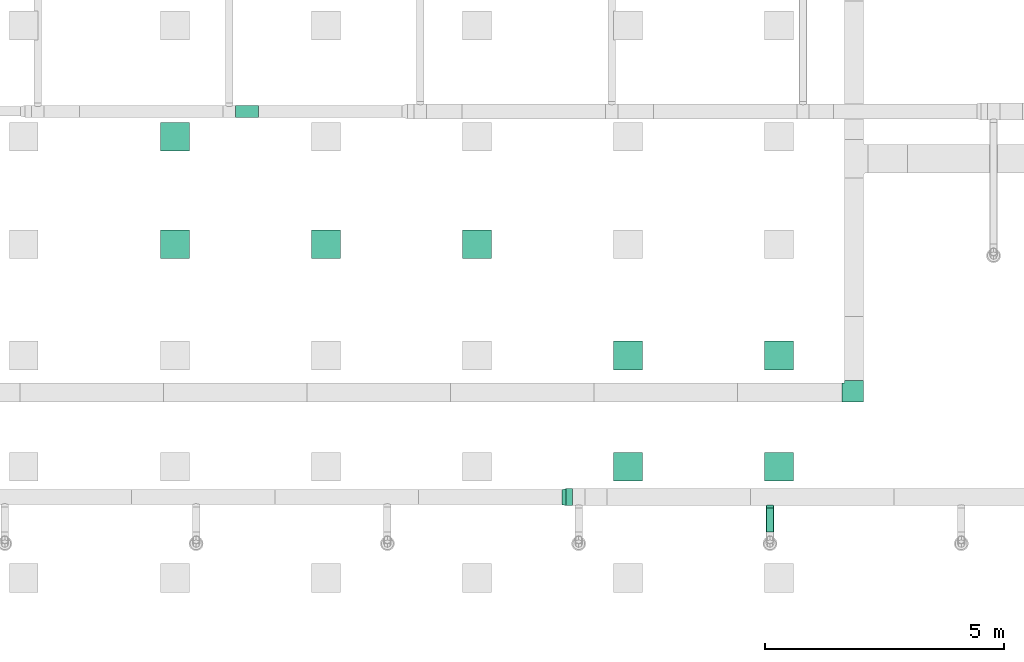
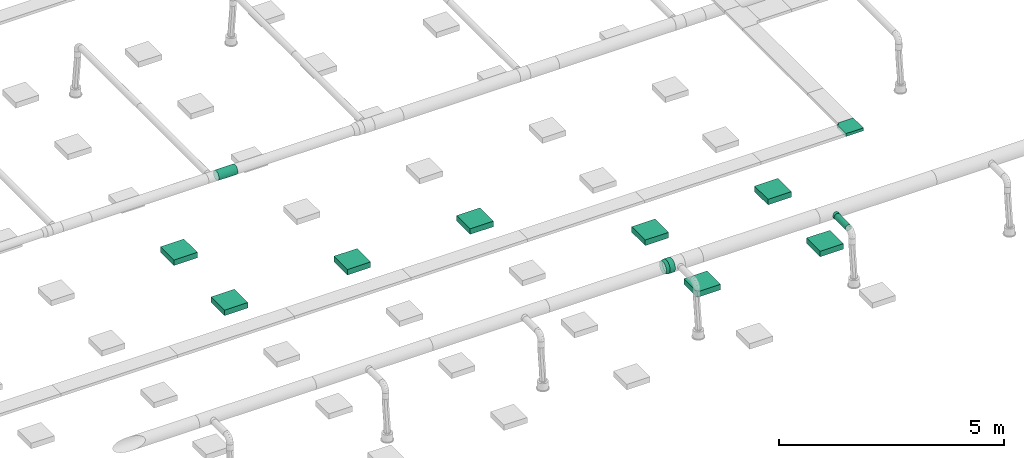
# One storey, part 27 of 374: 9 distribution elements, 4 flow segments, 1 flow fitting.
"""IFC2X3 building model written with IfcOpenShell, lengths in metres."""

from ifc_helpers import new_model, si_unit, direction, frame, frame_2d, origin, place, context, subcontext, project, spatial, rectangle, extrude, open_shell, surface_model, source, transform, mapped, element, save


model = new_model("IFC2X3")

# Units and contexts
model_context = context("Model", 3, precision=1e-05, world=origin(), true_north=direction((-0.4480736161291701, 0.8939966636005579)))
body_context = subcontext(model_context, "Body", "Model", "MODEL_VIEW")
ifc_project = project(units=[si_unit("LENGTHUNIT", "METRE"), si_unit("AREAUNIT", "SQUARE_METRE"), si_unit("VOLUMEUNIT", "CUBIC_METRE"), si_unit("PLANEANGLEUNIT", "RADIAN"), si_unit("THERMODYNAMICTEMPERATUREUNIT", "KELVIN"), si_unit("MASSUNIT", "GRAM", prefix="KILO"), si_unit("TIMEUNIT", "SECOND")], contexts=[model_context])

# Site, building, storey
site_placement = place(None, origin())
site = spatial("IfcSite", under=ifc_project, at=site_placement, Name="Site 1", CompositionType="ELEMENT")
building_placement = place(site_placement, origin())
building = spatial("IfcBuilding", under=site, at=building_placement, Name="Undefined", CompositionType="ELEMENT")
storey_placement = place(building_placement, origin())
storey = spatial("IfcBuildingStorey", under=building, at=storey_placement, Name="Rez de chauss\x8ee", CompositionType="ELEMENT", Elevation=0.0)

# Flow segment
shared_shape_1 = source(origin(), body_context, "Body", "SurfaceModel", [
    surface_model("IfcFaceBasedSurfaceModel", [(0.0, 0.046336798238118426, 0.0), (0.0, 0.0, 0.0), (0.13500000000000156, -7.105427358e-15, 8.8817842e-16), (0.13500000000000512, 0.046336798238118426, 0.0), (0.0, -0.044757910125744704, -0.0119928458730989), (0.13500000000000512, -0.044757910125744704, -0.0119928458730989), (0.0, -0.08488675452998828, -0.035161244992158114), (0.13500000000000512, -0.08488675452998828, -0.035161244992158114), (0.0, -0.11765181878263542, -0.06792630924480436), (0.13500000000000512, -0.11765181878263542, -0.06792630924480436), (0.0, -0.1408202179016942, -0.10805515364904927), (0.13500000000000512, -0.1408202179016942, -0.10805515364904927), (0.0, -0.15281306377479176, -0.15281306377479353), (0.13500000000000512, -0.15281306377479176, -0.15281306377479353), (0.0, -0.1528130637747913, -0.19914986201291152), (0.13500000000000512, -0.1528130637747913, -0.19914986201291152), (0.0, -0.14082021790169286, -0.24390777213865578), (0.13500000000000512, -0.14082021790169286, -0.24390777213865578), (0.0, -0.11765181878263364, -0.2840366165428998), (0.13500000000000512, -0.11765181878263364, -0.2840366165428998), (0.0, -0.0848867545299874, -0.31680168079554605), (0.13500000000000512, -0.0848867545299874, -0.31680168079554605), (0.0, -0.044757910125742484, -0.3399700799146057), (0.13500000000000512, -0.044757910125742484, -0.3399700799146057), (0.0, 1.776356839e-15, -0.35196292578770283), (0.13500000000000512, 1.776356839e-15, -0.35196292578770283), (0.0, 0.0463367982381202, -0.3519629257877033), (0.13500000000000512, 0.0463367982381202, -0.3519629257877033), (0.0, 0.09109470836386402, -0.3399700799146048), (0.13500000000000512, 0.09109470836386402, -0.3399700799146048), (0.0, 0.13122355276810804, -0.31680168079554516), (0.13500000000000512, 0.13122355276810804, -0.31680168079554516), (0.0, 0.16398861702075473, -0.2840366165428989), (0.13500000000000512, 0.16398861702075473, -0.2840366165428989), (0.0, 0.18715701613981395, -0.243907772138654), (0.13500000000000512, 0.18715701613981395, -0.243907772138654), (0.0, 0.19914986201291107, -0.19914986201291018), (0.13500000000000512, 0.19914986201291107, -0.19914986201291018), (0.0, 0.19914986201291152, -0.15281306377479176), (0.13500000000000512, 0.19914986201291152, -0.15281306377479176), (0.0, 0.18715701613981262, -0.1080551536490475), (0.13500000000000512, 0.18715701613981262, -0.1080551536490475), (0.0, 0.1639886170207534, -0.06792630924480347), (0.13500000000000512, 0.1639886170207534, -0.06792630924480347), (0.0, 0.1312235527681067, -0.03516124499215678), (0.13500000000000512, 0.1312235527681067, -0.03516124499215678), (0.0, 0.09109470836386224, -0.011992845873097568), (0.13500000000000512, 0.09109470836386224, -0.011992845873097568)], [open_shell([[[0, 1, 2, 3]], [[1, 4, 5, 2]], [[4, 6, 7, 5]], [[6, 8, 9, 7]], [[8, 10, 11, 9]], [[10, 12, 13, 11]], [[12, 14, 15, 13]], [[14, 16, 17, 15]], [[16, 18, 19, 17]], [[18, 20, 21, 19]], [[20, 22, 23, 21]], [[22, 24, 25, 23]], [[24, 26, 27, 25]], [[26, 28, 29, 27]], [[28, 30, 31, 29]], [[30, 32, 33, 31]], [[32, 34, 35, 33]], [[34, 36, 37, 35]], [[36, 38, 39, 37]], [[38, 40, 41, 39]], [[40, 42, 43, 41]], [[42, 44, 45, 43]], [[44, 46, 47, 45]], [[46, 0, 3, 47]]])]),
])
flow_segment_1_placement = place(storey_placement, origin())
element("IfcFlowSegment", 1, at=flow_segment_1_placement, inside=storey, Name="Manchon", ObjectType="Manchon", context=body_context, shape_type="MappedRepresentation", body=[
    mapped(shared_shape_1, transform((22.160000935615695, 2.897238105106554, 3.9714518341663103), x_axis=(-1.0, 0.0, 0.0), y_axis=(7.266545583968e-12, -0.9914448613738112, 0.13052619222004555), z_axis=(0.0, 0.13052619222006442, 0.9914448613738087))),
])

# Flow fitting
shared_shape_2 = source(origin(), body_context, "Body", "SurfaceModel", [
    surface_model("IfcFaceBasedSurfaceModel", [(0.08732124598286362, 1.776356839e-15, 7.105427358e-15), (0.08593597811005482, 0.0463160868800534, 0.0), (-0.0012291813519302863, 0.04109737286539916, 4.4408921e-16), (0.0, 0.0, 0.0), (0.08187457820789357, 0.09097253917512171, -0.011679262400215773), (-0.004832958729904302, 0.08072211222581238, -0.010363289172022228), (0.07541382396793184, 0.13092609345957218, -0.0342418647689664), (-0.010565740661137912, 0.1161738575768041, -0.030383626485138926), (0.06699400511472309, 0.16345398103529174, -0.06615020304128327), (-0.018036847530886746, 0.1450366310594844, -0.05869665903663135), (0.05718891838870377, 0.18633948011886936, -0.1052297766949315), (-0.02673713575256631, 0.1653434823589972, -0.09337290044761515), (0.04666676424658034, 0.1980229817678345, -0.14881737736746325), (-0.03607369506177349, 0.17571053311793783, -0.1320492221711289), (0.03614461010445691, 0.1977082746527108, -0.19394258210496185), (-0.045410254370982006, 0.1754312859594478, -0.17208989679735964), (0.02633952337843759, 0.1854168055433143, -0.2375301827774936), (-0.05411054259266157, 0.16452477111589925, -0.2107662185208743), (0.017919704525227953, 0.16198621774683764, -0.2766097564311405), (-0.061581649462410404, 0.14373424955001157, -0.2454424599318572), (0.011458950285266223, 0.12901326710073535, -0.30851809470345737), (-0.06731443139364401, 0.11447656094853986, -0.2737554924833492), (0.007397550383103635, 0.08874500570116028, -0.3310806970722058), (-0.07091820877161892, 0.07874556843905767, -0.29377582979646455), (0.006012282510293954, 0.04392564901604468, -0.34275995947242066), (-0.0721473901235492, 0.03897628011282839, -0.3041391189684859), (0.007397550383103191, -0.002390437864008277, -0.3427599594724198), (-0.07091820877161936, -0.0021210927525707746, -0.30413911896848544), (0.011458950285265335, -0.04704689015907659, -0.331080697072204), (-0.0673144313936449, -0.041745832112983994, -0.29377582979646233), (0.01791970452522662, -0.08700044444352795, -0.3085180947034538), (-0.061581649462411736, -0.07719757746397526, -0.2737554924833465), (0.026339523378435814, -0.11952833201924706, -0.2766097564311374), (-0.0541105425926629, -0.106060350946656, -0.2454424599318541), (0.03614461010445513, -0.14241383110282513, -0.23753018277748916), (-0.04541025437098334, -0.12636720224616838, -0.21076621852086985), (0.04666676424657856, -0.15409733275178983, -0.1939425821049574), (-0.03607369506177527, -0.13673425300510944, -0.1720898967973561), (0.05718891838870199, -0.15378262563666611, -0.14881737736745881), (-0.026737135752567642, -0.13645500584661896, -0.13204922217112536), (0.06699400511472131, -0.14149115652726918, -0.10522977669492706), (-0.018036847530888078, -0.12554849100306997, -0.09337290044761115), (0.0754138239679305, -0.11806056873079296, -0.06615020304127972), (-0.010565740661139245, -0.1047579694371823, -0.05869665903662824), (0.08187457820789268, -0.08508761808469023, -0.03424186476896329), (-0.00483295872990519, -0.07550028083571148, -0.03038362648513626), (0.08593597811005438, -0.04481935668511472, -0.011679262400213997), (-0.0012291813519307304, -0.039769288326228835, -0.010363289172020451)], [open_shell([[[0, 1, 2, 3]], [[1, 4, 5, 2]], [[4, 6, 7, 5]], [[6, 8, 9, 7]], [[8, 10, 11, 9]], [[10, 12, 13, 11]], [[12, 14, 15, 13]], [[14, 16, 17, 15]], [[16, 18, 19, 17]], [[18, 20, 21, 19]], [[20, 22, 23, 21]], [[22, 24, 25, 23]], [[24, 26, 27, 25]], [[26, 28, 29, 27]], [[28, 30, 31, 29]], [[30, 32, 33, 31]], [[32, 34, 35, 33]], [[34, 36, 37, 35]], [[36, 38, 39, 37]], [[38, 40, 41, 39]], [[40, 42, 43, 41]], [[42, 44, 45, 43]], [[44, 46, 47, 45]], [[46, 0, 3, 47]]])]),
])
flow_fitting_placement = place(storey_placement, origin())
element("IfcFlowFitting", 2, at=flow_fitting_placement, inside=storey, Name="Réduction conique", ObjectType="Réduction conique", context=body_context, shape_type="MappedRepresentation", body=[
    mapped(shared_shape_2, transform((21.940000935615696, 3.0087977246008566, 3.8000000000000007), x_axis=(0.9734171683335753, 0.22903933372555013, 0.0), y_axis=(0.029113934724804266, -0.12373422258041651, -0.9918882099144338), z_axis=(-0.22718141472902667, 0.9655210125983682, -0.12711325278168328))),
])

# Distribution element
shared_shape_3 = source(origin(), body_context, "Body", "SurfaceModel", [
    surface_model("IfcFaceBasedSurfaceModel", [(0.0, 0.049999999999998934, 0.0), (0.0, 0.0, 0.0), (0.08000000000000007, 0.0, 5.82867088e-16), (0.08000000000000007, 0.04999999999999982, 0.0), (0.0, 0.0, 0.04999999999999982), (0.08000000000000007, 0.0, 0.04999999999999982), (0.0, -0.3999999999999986, 0.04999999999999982), (1.776356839e-15, -0.3999999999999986, -0.3999999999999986), (0.08000000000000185, -0.3999999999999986, -0.3999999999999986), (0.08000000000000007, -0.3999999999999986, 0.04999999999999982), (0.0, 0.04999999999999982, -0.3999999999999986), (0.08000000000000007, 0.04999999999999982, -0.3999999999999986)], [open_shell([[[0, 1, 2, 3]], [[1, 4, 5, 2]], [[6, 7, 8, 9]], [[7, 10, 11, 8]], [[2, 5, 9]], [[2, 9, 8]], [[2, 8, 11]], [[2, 11, 3]], [[6, 4, 1]], [[7, 6, 1]], [[10, 7, 1]], [[0, 10, 1]]])]),
])
distribution_element_1_placement = place(storey_placement, origin())
element("IfcDistributionElement", 3, at=distribution_element_1_placement, inside=storey, Name="Angle", ObjectType="Angle", context=body_context, shape_type="MappedRepresentation", body=[
    mapped(shared_shape_3, transform((27.84402783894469, 5.239, 4.18), x_axis=(0.0, 0.0, -1.0), y_axis=(-1.0, 0.0, 0.0), z_axis=(0.0, 1.0, 0.0))),
])

# Flow segments
shared_shape_4 = source(origin(), body_context, "Body", "SurfaceModel", [
    surface_model("IfcFaceBasedSurfaceModel", [(0.0, 0.03263154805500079, 0.0), (0.0, 0.0, 0.0), (0.48600008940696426, 1.776356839e-15, 2.22044605e-16), (0.48600008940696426, 0.032631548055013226, 2.22044605e-16), (0.0, -0.031519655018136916, -0.008445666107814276), (0.48600008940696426, -0.031519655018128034, -0.008445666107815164), (0.0, -0.05977940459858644, -0.024761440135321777), (0.48600008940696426, -0.059779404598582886, -0.024761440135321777), (0.0, -0.08285339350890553, -0.047835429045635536), (0.48600008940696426, -0.08285339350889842, -0.0478354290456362), (0.0, -0.09916916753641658, -0.07609517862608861), (0.48600008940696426, -0.09916916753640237, -0.07609517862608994), (0.0, -0.1076148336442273, -0.10761483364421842), (0.48600008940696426, -0.1076148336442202, -0.10761483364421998), (0.0, -0.1076148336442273, -0.14024638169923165), (0.48600008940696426, -0.10761483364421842, -0.14024638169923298), (0.0, -0.09916916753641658, -0.17176603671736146), (0.48600008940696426, -0.09916916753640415, -0.17176603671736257), (0.0, -0.08285339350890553, -0.2000257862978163), (0.48600008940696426, -0.08285339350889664, -0.2000257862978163), (0.0, -0.059779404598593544, -0.22309977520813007), (0.48600008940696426, -0.059779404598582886, -0.2230997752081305), (0.0, -0.03151965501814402, -0.23941554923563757), (0.48600008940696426, -0.031519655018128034, -0.23941554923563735), (0.0, -1.4210854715e-14, -0.24786121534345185), (0.48600008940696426, 0.0, -0.2478612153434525), (0.0, 0.03263154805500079, -0.24786121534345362), (0.48600008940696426, 0.03263154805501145, -0.2478612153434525), (0.0, 0.0641512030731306, -0.23941554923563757), (0.48600008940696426, 0.06415120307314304, -0.2394155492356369), (0.0, 0.09241095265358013, -0.22309977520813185), (0.48600008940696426, 0.09241095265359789, -0.22309977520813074), (0.0, 0.11548494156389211, -0.2000257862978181), (0.48600008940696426, 0.11548494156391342, -0.20002578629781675), (0.0, 0.13180071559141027, -0.171766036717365), (0.48600008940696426, 0.13180071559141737, -0.17176603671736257), (0.0, 0.140246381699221, -0.1402463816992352), (0.48600008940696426, 0.14024638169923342, -0.14024638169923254), (0.0, 0.140246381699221, -0.10761483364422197), (0.48600008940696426, 0.14024638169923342, -0.10761483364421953), (0.0, 0.13180071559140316, -0.07609517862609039), (0.48600008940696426, 0.13180071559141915, -0.07609517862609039), (0.0, 0.11548494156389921, -0.04783542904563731), (0.48600008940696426, 0.11548494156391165, -0.0478354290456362), (0.0, 0.09241095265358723, -0.024761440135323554), (0.48600008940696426, 0.09241095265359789, -0.024761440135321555), (0.0, 0.06415120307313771, -0.008445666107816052), (0.48600008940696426, 0.06415120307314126, -0.008445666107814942)], [open_shell([[[0, 1, 2, 3]], [[1, 4, 5, 2]], [[4, 6, 7, 5]], [[6, 8, 9, 7]], [[8, 10, 11, 9]], [[10, 12, 13, 11]], [[12, 14, 15, 13]], [[14, 16, 17, 15]], [[16, 18, 19, 17]], [[18, 20, 21, 19]], [[20, 22, 23, 21]], [[22, 24, 25, 23]], [[24, 26, 27, 25]], [[26, 28, 29, 27]], [[28, 30, 31, 29]], [[30, 32, 33, 31]], [[32, 34, 35, 33]], [[34, 36, 37, 35]], [[36, 38, 39, 37]], [[38, 40, 41, 39]], [[40, 42, 43, 41]], [[42, 44, 45, 43]], [[44, 46, 47, 45]], [[46, 0, 3, 47]]])]),
])
flow_segment_2_placement = place(storey_placement, origin())
element("IfcFlowSegment", 4, at=flow_segment_2_placement, inside=storey, Name="Tube", ObjectType="Tube", context=body_context, shape_type="MappedRepresentation", body=[
    mapped(shared_shape_4, transform((15.596053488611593, 10.951546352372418, 3.920740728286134), x_axis=(-1.0, 0.0, 0.0), y_axis=(7.266545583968e-12, -0.9914448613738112, 0.13052619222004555), z_axis=(0.0, 0.13052619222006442, 0.9914448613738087))),
])
shared_shape_5 = source(origin(), body_context, "Body", "SurfaceModel", [
    surface_model("IfcFaceBasedSurfaceModel", [(0.0, 0.020884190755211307, 0.0), (0.0, 0.0, 0.0), (0.5037979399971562, 0.0, 0.0), (0.5037979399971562, 0.0208841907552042, 0.0), (0.0, -0.020172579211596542, -0.005405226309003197), (0.5037979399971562, -0.020172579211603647, -0.005405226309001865), (0.0, -0.03825881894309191, -0.015847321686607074), (0.5037979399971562, -0.03825881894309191, -0.015847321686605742), (0.0, -0.05302617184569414, -0.0306146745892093), (0.5037979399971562, -0.05302617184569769, -0.030614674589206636), (0.0, -0.06346826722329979, -0.04870091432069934), (0.5037979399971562, -0.06346826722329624, -0.04870091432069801), (0.0, -0.06887349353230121, -0.06887349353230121), (0.5037979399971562, -0.06887349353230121, -0.06887349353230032), (0.0, -0.06887349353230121, -0.08975768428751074), (0.5037979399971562, -0.06887349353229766, -0.08975768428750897), (0.0, -0.06346826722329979, -0.10993026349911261), (0.5037979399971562, -0.06346826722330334, -0.10993026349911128), (0.0, -0.05302617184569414, -0.12801650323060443), (0.5037979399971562, -0.05302617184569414, -0.1280165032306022), (0.0, -0.038258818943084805, -0.14278385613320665), (0.5037979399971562, -0.03825881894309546, -0.1427838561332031), (0.0, -0.020172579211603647, -0.15322595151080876), (0.5037979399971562, -0.020172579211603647, -0.15322595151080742), (0.0, 7.105427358e-15, -0.15863117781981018), (0.5037979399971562, -3.552713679e-15, -0.1586311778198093), (0.0, 0.020884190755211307, -0.15863117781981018), (0.5037979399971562, 0.020884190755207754, -0.1586311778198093), (0.0, 0.04105676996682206, -0.15322595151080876), (0.5037979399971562, 0.04105676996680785, -0.15322595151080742), (0.0, 0.05914300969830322, -0.1427838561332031), (0.5037979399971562, 0.05914300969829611, -0.14278385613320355), (0.0, 0.07391036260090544, -0.12801650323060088), (0.5037979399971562, 0.07391036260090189, -0.1280165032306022), (0.0, 0.0843524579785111, -0.10993026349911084), (0.5037979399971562, 0.08435245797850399, -0.10993026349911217), (0.0, 0.08975768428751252, -0.08975768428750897), (0.5037979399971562, 0.08975768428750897, -0.08975768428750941), (0.0, 0.08975768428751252, -0.06887349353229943), (0.5037979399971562, 0.08975768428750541, -0.06887349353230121), (0.0, 0.0843524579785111, -0.048700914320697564), (0.5037979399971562, 0.08435245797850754, -0.048700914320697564), (0.0, 0.07391036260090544, -0.030614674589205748), (0.5037979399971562, 0.07391036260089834, -0.03061467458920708), (0.0, 0.05914300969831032, -0.015847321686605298), (0.5037979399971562, 0.059143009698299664, -0.015847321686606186), (0.0, 0.04105676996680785, -0.005405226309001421), (0.5037979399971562, 0.0410567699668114, -0.005405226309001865)], [open_shell([[[0, 1, 2, 3]], [[1, 4, 5, 2]], [[4, 6, 7, 5]], [[6, 8, 9, 7]], [[8, 10, 11, 9]], [[10, 12, 13, 11]], [[12, 14, 15, 13]], [[14, 16, 17, 15]], [[16, 18, 19, 17]], [[18, 20, 21, 19]], [[20, 22, 23, 21]], [[22, 24, 25, 23]], [[24, 26, 27, 25]], [[26, 28, 29, 27]], [[28, 30, 31, 29]], [[30, 32, 33, 31]], [[32, 34, 35, 33]], [[34, 36, 37, 35]], [[36, 38, 39, 37]], [[38, 40, 41, 39]], [[40, 42, 43, 41]], [[42, 44, 45, 43]], [[44, 46, 47, 45]], [[46, 0, 3, 47]]])]),
])
flow_segment_3_placement = place(storey_placement, origin())
element("IfcFlowSegment", 5, at=flow_segment_3_placement, inside=storey, Name="Tube", ObjectType="Tube", context=body_context, shape_type="MappedRepresentation", body=[
    mapped(shared_shape_5, transform((26.269295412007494, 2.623797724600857, 3.877274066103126), x_axis=(0.0, -1.0, 0.0), y_axis=(0.9914448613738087, 0.0, 0.13052619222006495), z_axis=(-0.13052619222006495, 0.0, 0.9914448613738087))),
])
shared_shape_6 = source(origin(), body_context, "Body", "SurfaceModel", [
    surface_model("IfcFaceBasedSurfaceModel", [(0.0012117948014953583, 0.0208841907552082, 0.0), (0.0, 0.0, 0.0), (0.05121179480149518, 4.4408921e-16, 7.105427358e-15), (0.05121179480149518, 0.0208841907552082, 0.0), (-0.0033539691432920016, -0.02017257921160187, -0.005405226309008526), (0.05121179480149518, -0.02017257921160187, -0.005405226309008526), (-0.008043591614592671, -0.03825881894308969, -0.01584732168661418), (0.05121179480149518, -0.03825881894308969, -0.01584732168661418), (-0.012867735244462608, -0.05302617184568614, -0.03061467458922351), (0.05121179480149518, -0.05302617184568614, -0.03061467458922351), (-0.01649155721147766, -0.06346826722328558, -0.04870091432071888), (0.05121179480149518, -0.06346826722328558, -0.04870091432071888), (-0.017838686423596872, -0.06887349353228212, -0.06887349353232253), (0.05121179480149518, -0.06887349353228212, -0.06887349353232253), (-0.01649155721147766, -0.06887349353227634, -0.08975768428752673), (0.05121179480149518, -0.06887349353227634, -0.08975768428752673), (-0.012867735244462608, -0.06346826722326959, -0.10993026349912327), (0.05121179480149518, -0.06346826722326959, -0.10993026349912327), (-0.008043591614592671, -0.05302617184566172, -0.12801650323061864), (0.05121179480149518, -0.05302617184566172, -0.12801650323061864), (-0.0033539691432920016, -0.03825881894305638, -0.14278385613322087), (0.05121179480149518, -0.03825881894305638, -0.14278385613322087), (0.0, -0.020172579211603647, -0.15322595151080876), (0.05121179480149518, -0.020172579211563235, -0.1532259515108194), (0.0012117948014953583, 4.2188474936e-14, -0.15863117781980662), (0.05121179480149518, 4.2188474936e-14, -0.15863117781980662), (0.0, 0.020884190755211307, -0.15863117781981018), (0.05121179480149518, 0.020884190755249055, -0.15863117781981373), (-0.0033539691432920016, 0.04105676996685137, -0.1532259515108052), (0.05121179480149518, 0.04105676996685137, -0.1532259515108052), (-0.008043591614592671, 0.059143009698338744, -0.14278385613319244), (0.05121179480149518, 0.059143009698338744, -0.14278385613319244), (-0.012867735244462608, 0.07391036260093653, -0.128016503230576), (0.05121179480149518, 0.07391036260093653, -0.128016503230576), (-0.01649155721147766, 0.08435245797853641, -0.10993026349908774), (0.05121179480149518, 0.08435245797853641, -0.10993026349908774), (-0.017838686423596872, 0.0897576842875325, -0.0897576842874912), (0.05121179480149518, 0.0897576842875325, -0.0897576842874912), (-0.01649155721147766, 0.08975768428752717, -0.0688734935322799), (0.05121179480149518, 0.08975768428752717, -0.0688734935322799), (-0.012867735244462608, 0.08435245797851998, -0.04870091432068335), (0.05121179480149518, 0.08435245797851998, -0.04870091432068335), (-0.008043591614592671, 0.07391036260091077, -0.030614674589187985), (0.05121179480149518, 0.07391036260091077, -0.030614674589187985), (-0.0033539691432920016, 0.05914300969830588, -0.015847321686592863), (0.05121179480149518, 0.05914300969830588, -0.015847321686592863), (0.0, 0.04105676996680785, -0.005405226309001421), (0.05121179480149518, 0.04105676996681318, -0.00540522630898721)], [open_shell([[[0, 1, 2, 3]], [[1, 4, 5, 2]], [[4, 6, 7, 5]], [[6, 8, 9, 7]], [[8, 10, 11, 9]], [[10, 12, 13, 11]], [[12, 14, 15, 13]], [[14, 16, 17, 15]], [[16, 18, 19, 17]], [[18, 20, 21, 19]], [[20, 22, 23, 21]], [[22, 24, 25, 23]], [[24, 26, 27, 25]], [[26, 28, 29, 27]], [[28, 30, 31, 29]], [[30, 32, 33, 31]], [[32, 34, 35, 33]], [[34, 36, 37, 35]], [[36, 38, 39, 37]], [[38, 40, 41, 39]], [[40, 42, 43, 41]], [[42, 44, 45, 43]], [[44, 46, 47, 45]], [[46, 0, 3, 47]]])]),
])
flow_segment_4_placement = place(storey_placement, origin())
element("IfcFlowSegment", 6, at=flow_segment_4_placement, inside=storey, Name="Piquage équerre circulaire", ObjectType="Piquage équerre circulaire", context=body_context, shape_type="MappedRepresentation", body=[
    mapped(shared_shape_6, transform((26.212726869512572, 2.675009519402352, 3.779294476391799), x_axis=(0.0, -1.0, 0.0), y_axis=(-0.13052619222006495, 0.0, 0.9914448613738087), z_axis=(-0.9914448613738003, 0.0, -0.13052619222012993))),
])

# Distribution elements
distribution_element_2_placement = place(storey_placement, origin())
element("IfcDistributionElement", 7, at=distribution_element_2_placement, inside=storey, Name="Decken-Rechteckleuchte mit Rahmen AP", ObjectType="Decken-Rechteckleuchte mit Rahmen AP", context=body_context, shape_type="SweptSolid", body=[
    extrude(rectangle(XDim=0.6000000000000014, YDim=0.6000000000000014, at=frame_2d((3.552713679e-15, 0.0), x_axis=(0.0, 1.0))), frame((23.320441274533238, 5.8125, 2.5500000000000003), z_axis=(0.0, 0.0, -1.0), x_axis=(1.0, 0.0, 0.0)), (0.0, 0.0, 1.0), 0.15),
])
distribution_element_3_placement = place(storey_placement, origin())
element("IfcDistributionElement", 8, at=distribution_element_3_placement, inside=storey, Name="Decken-Rechteckleuchte mit Rahmen AP", ObjectType="Decken-Rechteckleuchte mit Rahmen AP", context=body_context, shape_type="SweptSolid", body=[
    extrude(rectangle(XDim=0.6000000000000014, YDim=0.6000000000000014, at=frame_2d((3.552713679e-15, 0.0), x_axis=(0.0, 1.0))), frame((20.162599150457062, 8.1375, 2.5500000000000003), z_axis=(0.0, 0.0, -1.0), x_axis=(1.0, 0.0, 0.0)), (0.0, 0.0, 1.0), 0.15),
])
distribution_element_4_placement = place(storey_placement, origin())
element("IfcDistributionElement", 9, at=distribution_element_4_placement, inside=storey, Name="Decken-Rechteckleuchte mit Rahmen AP", ObjectType="Decken-Rechteckleuchte mit Rahmen AP", context=body_context, shape_type="SweptSolid", body=[
    extrude(rectangle(XDim=0.6000000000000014, YDim=0.6000000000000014, at=frame_2d((3.552713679e-15, 0.0), x_axis=(0.0, 1.0))), frame((17.004756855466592, 8.1375, 2.5500000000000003), z_axis=(0.0, 0.0, -1.0), x_axis=(1.0, 0.0, 0.0)), (0.0, 0.0, 1.0), 0.15),
])
distribution_element_5_placement = place(storey_placement, origin())
element("IfcDistributionElement", 10, at=distribution_element_5_placement, inside=storey, Name="Decken-Rechteckleuchte mit Rahmen AP", ObjectType="Decken-Rechteckleuchte mit Rahmen AP", context=body_context, shape_type="SweptSolid", body=[
    extrude(rectangle(XDim=0.6000000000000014, YDim=0.6000000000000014, at=frame_2d((3.552713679e-15, 0.0), x_axis=(0.0, 1.0))), frame((23.320441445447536, 3.4875, 2.5500000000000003), z_axis=(0.0, 0.0, -1.0), x_axis=(1.0, 0.0, 0.0)), (0.0, 0.0, 1.0), 0.15),
])
distribution_element_6_placement = place(storey_placement, origin())
element("IfcDistributionElement", 11, at=distribution_element_6_placement, inside=storey, Name="Decken-Rechteckleuchte mit Rahmen AP", ObjectType="Decken-Rechteckleuchte mit Rahmen AP", context=body_context, shape_type="SweptSolid", body=[
    extrude(rectangle(XDim=0.6000000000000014, YDim=0.6000000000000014, at=frame_2d((3.552713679e-15, 0.0), x_axis=(0.0, 1.0))), frame((13.846914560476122, 10.3875, 2.5500000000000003), z_axis=(0.0, 0.0, -1.0), x_axis=(1.0, 0.0, 0.0)), (0.0, 0.0, 1.0), 0.15),
])
distribution_element_7_placement = place(storey_placement, origin())
element("IfcDistributionElement", 12, at=distribution_element_7_placement, inside=storey, Name="Decken-Rechteckleuchte mit Rahmen AP", ObjectType="Decken-Rechteckleuchte mit Rahmen AP", context=body_context, shape_type="SweptSolid", body=[
    extrude(rectangle(XDim=0.6000000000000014, YDim=0.6000000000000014, at=frame_2d((3.552713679e-15, 0.0), x_axis=(0.0, 1.0))), frame((26.478283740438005, 3.4875, 2.5500000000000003), z_axis=(0.0, 0.0, -1.0), x_axis=(1.0, 0.0, 0.0)), (0.0, 0.0, 1.0), 0.15),
])
distribution_element_8_placement = place(storey_placement, origin())
element("IfcDistributionElement", 13, at=distribution_element_8_placement, inside=storey, Name="Decken-Rechteckleuchte mit Rahmen AP", ObjectType="Decken-Rechteckleuchte mit Rahmen AP", context=body_context, shape_type="SweptSolid", body=[
    extrude(rectangle(XDim=0.6000000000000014, YDim=0.6000000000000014, at=frame_2d((3.552713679e-15, 0.0), x_axis=(0.0, 1.0))), frame((13.846914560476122, 8.1375, 2.5500000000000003), z_axis=(0.0, 0.0, -1.0), x_axis=(1.0, 0.0, 0.0)), (0.0, 0.0, 1.0), 0.15),
])
distribution_element_9_placement = place(storey_placement, origin())
element("IfcDistributionElement", 14, at=distribution_element_9_placement, inside=storey, Name="Decken-Rechteckleuchte mit Rahmen AP", ObjectType="Decken-Rechteckleuchte mit Rahmen AP", context=body_context, shape_type="SweptSolid", body=[
    extrude(rectangle(XDim=0.6000000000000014, YDim=0.6000000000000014, at=frame_2d((3.552713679e-15, 0.0), x_axis=(0.0, 1.0))), frame((26.47828356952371, 5.8125, 2.5500000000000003), z_axis=(0.0, 0.0, -1.0), x_axis=(1.0, 0.0, 0.0)), (0.0, 0.0, 1.0), 0.15),
])

save(model, "model.ifc")
